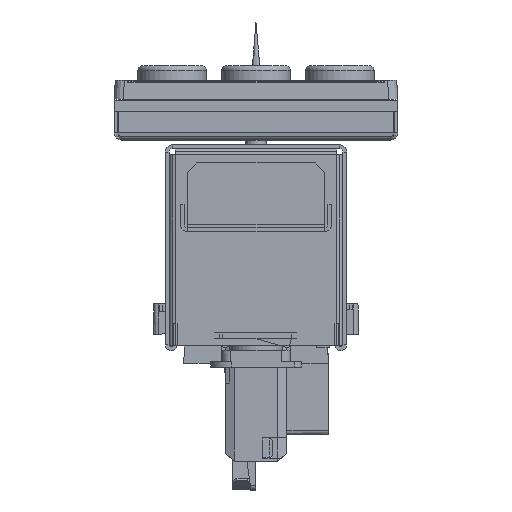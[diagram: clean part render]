
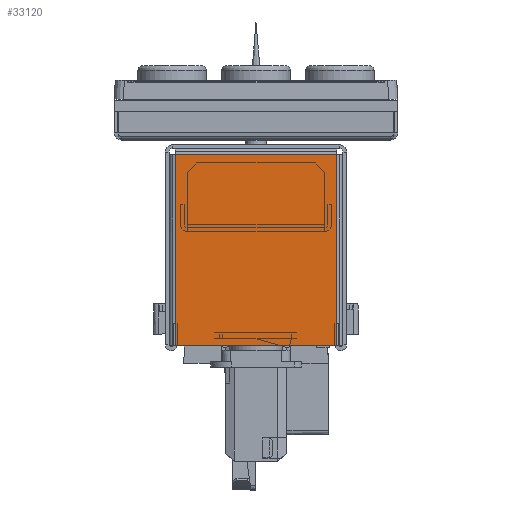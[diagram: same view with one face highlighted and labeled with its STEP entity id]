
A CAD part, left-side view. The second image highlights one B-rep face of the part: STEP entity #33120.
In plain terms, the highlighted planar face has unit normal (-1, 0, 0).
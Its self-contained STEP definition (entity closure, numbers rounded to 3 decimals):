
#4035=FACE_OUTER_BOUND('',#6162,.T.);
#6162=EDGE_LOOP('',(#24619,#24620,#24621,#24622));
#8261=LINE('',#56402,#11058);
#8271=LINE('',#56423,#11068);
#8272=LINE('',#56425,#11069);
#8273=LINE('',#56426,#11070);
#11058=VECTOR('',#42102,10.);
#11068=VECTOR('',#42122,10.);
#11069=VECTOR('',#42123,10.);
#11070=VECTOR('',#42124,10.);
#14336=VERTEX_POINT('',#56399);
#14337=VERTEX_POINT('',#56401);
#14343=VERTEX_POINT('',#56422);
#14344=VERTEX_POINT('',#56424);
#18084=EDGE_CURVE('',#14337,#14336,#8261,.T.);
#18095=EDGE_CURVE('',#14336,#14343,#8271,.T.);
#18096=EDGE_CURVE('',#14343,#14344,#8272,.T.);
#18097=EDGE_CURVE('',#14344,#14337,#8273,.T.);
#24619=ORIENTED_EDGE('',*,*,#18095,.T.);
#24620=ORIENTED_EDGE('',*,*,#18096,.T.);
#24621=ORIENTED_EDGE('',*,*,#18097,.T.);
#24622=ORIENTED_EDGE('',*,*,#18084,.T.);
#31679=PLANE('',#36068);
#33120=ADVANCED_FACE('',(#4035),#31679,.T.);
#36068=AXIS2_PLACEMENT_3D('',#56421,#42120,#42121);
#42102=DIRECTION('',(0.,0.,-1.));
#42120=DIRECTION('center_axis',(-1.,0.,0.));
#42121=DIRECTION('ref_axis',(0.,1.,0.));
#42122=DIRECTION('',(0.,-1.,0.));
#42123=DIRECTION('',(0.,0.,1.));
#42124=DIRECTION('',(0.,1.,0.));
#56399=CARTESIAN_POINT('',(181.15,17.6,3833.526));
#56401=CARTESIAN_POINT('',(181.15,17.6,3875.126));
#56402=CARTESIAN_POINT('',(181.15,17.6,3864.697));
#56421=CARTESIAN_POINT('Origin',(181.15,0.,
3854.268));
#56422=CARTESIAN_POINT('',(181.15,-17.6,3833.526));
#56423=CARTESIAN_POINT('',(181.15,9.5,3833.526));
#56424=CARTESIAN_POINT('',(181.15,-17.6,3875.126));
#56425=CARTESIAN_POINT('',(181.15,-17.6,3843.297));
#56426=CARTESIAN_POINT('',(181.15,-9.5,3875.126));
